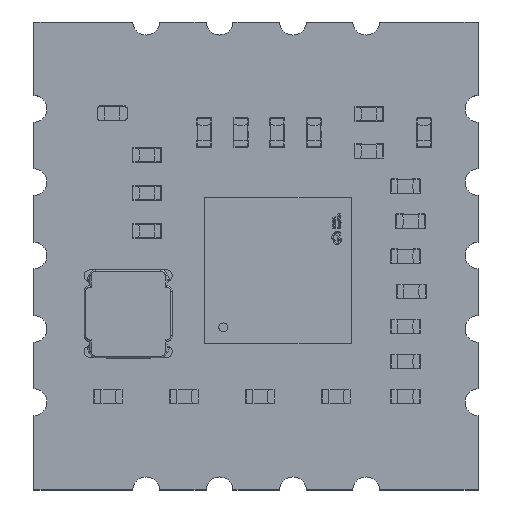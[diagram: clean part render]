
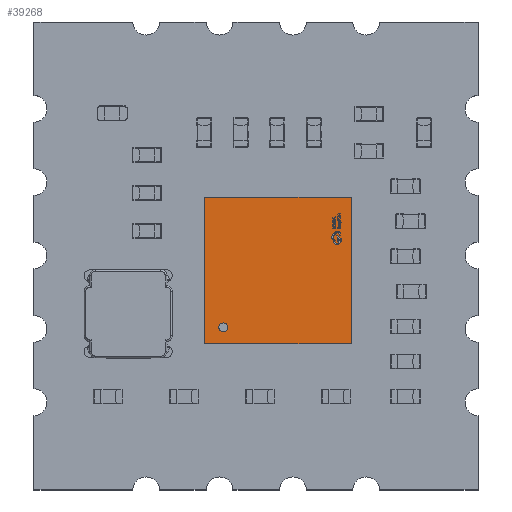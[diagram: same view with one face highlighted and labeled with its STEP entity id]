
A CAD part, top view. The second image highlights one B-rep face of the part: STEP entity #39268.
In plain terms, the highlighted planar face has unit normal (0, 0, 1).
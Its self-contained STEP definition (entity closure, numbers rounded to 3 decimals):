
#36137 = VERTEX_POINT('',#36138);
#36138 = CARTESIAN_POINT('',(-1.865,-1.789,
    0.767));
#36144 = EDGE_CURVE('',#36145,#36137,#36147,.T.);
#36145 = VERTEX_POINT('',#36146);
#36146 = CARTESIAN_POINT('',(-1.865,-2.093,
    0.767));
#36147 = CIRCLE('',#36148,0.152);
#36148 = AXIS2_PLACEMENT_3D('',#36149,#36150,#36151);
#36149 = CARTESIAN_POINT('',(-1.865,-1.941,
    0.767));
#36150 = DIRECTION('',(0.,-0.,1.));
#36151 = DIRECTION('',(0.,1.,0.));
#38626 = VERTEX_POINT('',#38627);
#38627 = CARTESIAN_POINT('',(2.491,-2.491,
    0.767));
#38633 = EDGE_CURVE('',#38634,#38626,#38636,.T.);
#38634 = VERTEX_POINT('',#38635);
#38635 = CARTESIAN_POINT('',(-2.491,-2.491,
    0.767));
#38636 = LINE('',#38637,#38638);
#38637 = CARTESIAN_POINT('',(-2.491,-2.491,
    0.767));
#38638 = VECTOR('',#38639,1.);
#38639 = DIRECTION('',(1.,0.,0.));
#38680 = VERTEX_POINT('',#38681);
#38681 = CARTESIAN_POINT('',(2.491,2.491,
    0.767));
#38687 = EDGE_CURVE('',#38626,#38680,#38688,.T.);
#38688 = LINE('',#38689,#38690);
#38689 = CARTESIAN_POINT('',(2.491,2.491,
    0.767));
#38690 = VECTOR('',#38691,1.);
#38691 = DIRECTION('',(0.,1.,0.));
#39042 = VERTEX_POINT('',#39043);
#39043 = CARTESIAN_POINT('',(-2.491,2.491,
    0.767));
#39049 = EDGE_CURVE('',#38680,#39042,#39050,.T.);
#39050 = LINE('',#39051,#39052);
#39051 = CARTESIAN_POINT('',(-2.491,2.491,
    0.767));
#39052 = VECTOR('',#39053,1.);
#39053 = DIRECTION('',(-1.,0.,0.));
#39089 = EDGE_CURVE('',#39042,#38634,#39090,.T.);
#39090 = LINE('',#39091,#39092);
#39091 = CARTESIAN_POINT('',(-2.491,2.491,
    0.767));
#39092 = VECTOR('',#39093,1.);
#39093 = DIRECTION('',(0.,-1.,0.));
#39268 = ADVANCED_FACE('',(#39269,#39279),#39285,.F.);
#39269 = FACE_BOUND('',#39270,.T.);
#39270 = EDGE_LOOP('',(#39271,#39278));
#39271 = ORIENTED_EDGE('',*,*,#39272,.F.);
#39272 = EDGE_CURVE('',#36137,#36145,#39273,.T.);
#39273 = CIRCLE('',#39274,0.152);
#39274 = AXIS2_PLACEMENT_3D('',#39275,#39276,#39277);
#39275 = CARTESIAN_POINT('',(-1.865,-1.941,
    0.767));
#39276 = DIRECTION('',(0.,-0.,1.));
#39277 = DIRECTION('',(0.,1.,0.));
#39278 = ORIENTED_EDGE('',*,*,#36144,.F.);
#39279 = FACE_BOUND('',#39280,.T.);
#39280 = EDGE_LOOP('',(#39281,#39282,#39283,#39284));
#39281 = ORIENTED_EDGE('',*,*,#38633,.T.);
#39282 = ORIENTED_EDGE('',*,*,#38687,.T.);
#39283 = ORIENTED_EDGE('',*,*,#39049,.T.);
#39284 = ORIENTED_EDGE('',*,*,#39089,.T.);
#39285 = PLANE('',#39286);
#39286 = AXIS2_PLACEMENT_3D('',#39287,#39288,#39289);
#39287 = CARTESIAN_POINT('',(0.,0.,0.767));
#39288 = DIRECTION('',(0.,0.,-1.));
#39289 = DIRECTION('',(0.,-1.,0.));
